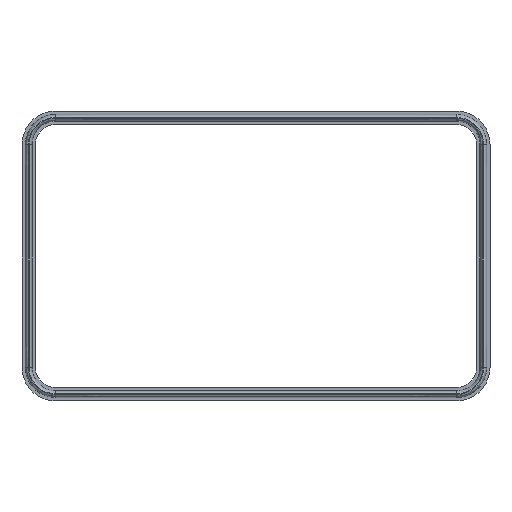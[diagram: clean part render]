
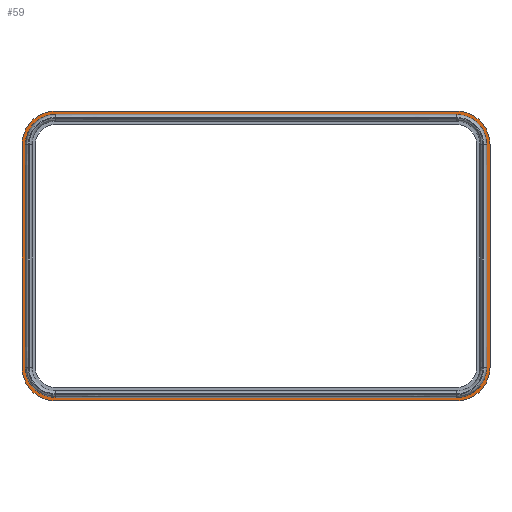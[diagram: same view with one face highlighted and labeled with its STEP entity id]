
A CAD part, top view. The second image highlights one B-rep face of the part: STEP entity #59.
In plain terms, the highlighted planar face has unit normal (0, 0, 1).
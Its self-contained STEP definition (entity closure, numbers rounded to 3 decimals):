
#21 = EDGE_CURVE('',#22,#24,#26,.T.);
#22 = VERTEX_POINT('',#23);
#23 = CARTESIAN_POINT('',(-24.,-2.,0.8));
#24 = VERTEX_POINT('',#25);
#25 = CARTESIAN_POINT('',(-18.,-8.,0.8));
#26 = CIRCLE('',#27,6.);
#27 = AXIS2_PLACEMENT_3D('',#28,#29,#30);
#28 = CARTESIAN_POINT('',(-18.,-2.,0.8));
#29 = DIRECTION('',(0.,0.,1.));
#30 = DIRECTION('',(1.,0.,-0.));
#59 = ADVANCED_FACE('',(#60,#120),#234,.T.);
#60 = FACE_BOUND('',#61,.T.);
#61 = EDGE_LOOP('',(#62,#63,#71,#80,#88,#97,#105,#114));
#62 = ORIENTED_EDGE('',*,*,#21,.T.);
#63 = ORIENTED_EDGE('',*,*,#64,.T.);
#64 = EDGE_CURVE('',#24,#65,#67,.T.);
#65 = VERTEX_POINT('',#66);
#66 = CARTESIAN_POINT('',(54.,-8.,0.8));
#67 = LINE('',#68,#69);
#68 = CARTESIAN_POINT('',(-18.,-8.,0.8));
#69 = VECTOR('',#70,1.);
#70 = DIRECTION('',(1.,0.,-0.));
#71 = ORIENTED_EDGE('',*,*,#72,.T.);
#72 = EDGE_CURVE('',#65,#73,#75,.T.);
#73 = VERTEX_POINT('',#74);
#74 = CARTESIAN_POINT('',(60.,-2.,0.8));
#75 = CIRCLE('',#76,6.);
#76 = AXIS2_PLACEMENT_3D('',#77,#78,#79);
#77 = CARTESIAN_POINT('',(54.,-2.,0.8));
#78 = DIRECTION('',(0.,0.,1.));
#79 = DIRECTION('',(1.,0.,-0.));
#80 = ORIENTED_EDGE('',*,*,#81,.T.);
#81 = EDGE_CURVE('',#73,#82,#84,.T.);
#82 = VERTEX_POINT('',#83);
#83 = CARTESIAN_POINT('',(60.,38.,0.8));
#84 = LINE('',#85,#86);
#85 = CARTESIAN_POINT('',(60.,-2.,0.8));
#86 = VECTOR('',#87,1.);
#87 = DIRECTION('',(-0.,1.,0.));
#88 = ORIENTED_EDGE('',*,*,#89,.T.);
#89 = EDGE_CURVE('',#82,#90,#92,.T.);
#90 = VERTEX_POINT('',#91);
#91 = CARTESIAN_POINT('',(54.,44.,0.8));
#92 = CIRCLE('',#93,6.);
#93 = AXIS2_PLACEMENT_3D('',#94,#95,#96);
#94 = CARTESIAN_POINT('',(54.,38.,0.8));
#95 = DIRECTION('',(0.,0.,1.));
#96 = DIRECTION('',(1.,0.,-0.));
#97 = ORIENTED_EDGE('',*,*,#98,.F.);
#98 = EDGE_CURVE('',#99,#90,#101,.T.);
#99 = VERTEX_POINT('',#100);
#100 = CARTESIAN_POINT('',(-18.,44.,0.8));
#101 = LINE('',#102,#103);
#102 = CARTESIAN_POINT('',(-18.,44.,0.8));
#103 = VECTOR('',#104,1.);
#104 = DIRECTION('',(1.,0.,-0.));
#105 = ORIENTED_EDGE('',*,*,#106,.T.);
#106 = EDGE_CURVE('',#99,#107,#109,.T.);
#107 = VERTEX_POINT('',#108);
#108 = CARTESIAN_POINT('',(-24.,38.,0.8));
#109 = CIRCLE('',#110,6.);
#110 = AXIS2_PLACEMENT_3D('',#111,#112,#113);
#111 = CARTESIAN_POINT('',(-18.,38.,0.8));
#112 = DIRECTION('',(0.,0.,1.));
#113 = DIRECTION('',(1.,0.,-0.));
#114 = ORIENTED_EDGE('',*,*,#115,.F.);
#115 = EDGE_CURVE('',#22,#107,#116,.T.);
#116 = LINE('',#117,#118);
#117 = CARTESIAN_POINT('',(-24.,-2.,0.8));
#118 = VECTOR('',#119,1.);
#119 = DIRECTION('',(-0.,1.,0.));
#120 = FACE_BOUND('',#121,.T.);
#121 = EDGE_LOOP('',(#122,#138,#152,#166,#180,#194,#208,#222));
#122 = ORIENTED_EDGE('',*,*,#123,.F.);
#123 = EDGE_CURVE('',#124,#126,#128,.T.);
#124 = VERTEX_POINT('',#125);
#125 = CARTESIAN_POINT('',(54.,-7.4,0.8));
#126 = VERTEX_POINT('',#127);
#127 = CARTESIAN_POINT('',(59.4,-2.,0.8));
#128 = B_SPLINE_CURVE_WITH_KNOTS('',8,(#129,#130,#131,#132,#133,#134,
    #135,#136,#137),.UNSPECIFIED.,.F.,.F.,(9,9),(0.,1.),
  .PIECEWISE_BEZIER_KNOTS.);
#129 = CARTESIAN_POINT('',(54.,-7.4,0.8));
#130 = CARTESIAN_POINT('',(55.06,-7.4,0.8));
#131 = CARTESIAN_POINT('',(56.121,-7.162,0.8));
#132 = CARTESIAN_POINT('',(57.119,-6.686,0.8));
#133 = CARTESIAN_POINT('',(57.992,-5.992,0.8));
#134 = CARTESIAN_POINT('',(58.686,-5.119,0.8));
#135 = CARTESIAN_POINT('',(59.162,-4.121,0.8));
#136 = CARTESIAN_POINT('',(59.4,-3.06,0.8));
#137 = CARTESIAN_POINT('',(59.4,-2.,0.8));
#138 = ORIENTED_EDGE('',*,*,#139,.F.);
#139 = EDGE_CURVE('',#140,#124,#142,.T.);
#140 = VERTEX_POINT('',#141);
#141 = CARTESIAN_POINT('',(-18.,-7.4,0.8));
#142 = B_SPLINE_CURVE_WITH_KNOTS('',8,(#143,#144,#145,#146,#147,#148,
    #149,#150,#151),.UNSPECIFIED.,.F.,.F.,(9,9),(7.,8.),
  .PIECEWISE_BEZIER_KNOTS.);
#143 = CARTESIAN_POINT('',(-18.,-7.4,0.8));
#144 = CARTESIAN_POINT('',(-9.,-7.4,0.8));
#145 = CARTESIAN_POINT('',(0.,-7.4,0.8));
#146 = CARTESIAN_POINT('',(9.,-7.4,0.8));
#147 = CARTESIAN_POINT('',(18.,-7.4,0.8));
#148 = CARTESIAN_POINT('',(27.,-7.4,0.8));
#149 = CARTESIAN_POINT('',(36.,-7.4,0.8));
#150 = CARTESIAN_POINT('',(45.,-7.4,0.8));
#151 = CARTESIAN_POINT('',(54.,-7.4,0.8));
#152 = ORIENTED_EDGE('',*,*,#153,.F.);
#153 = EDGE_CURVE('',#154,#140,#156,.T.);
#154 = VERTEX_POINT('',#155);
#155 = CARTESIAN_POINT('',(-23.4,-2.,0.8));
#156 = B_SPLINE_CURVE_WITH_KNOTS('',8,(#157,#158,#159,#160,#161,#162,
    #163,#164,#165),.UNSPECIFIED.,.F.,.F.,(9,9),(6.,7.),
  .PIECEWISE_BEZIER_KNOTS.);
#157 = CARTESIAN_POINT('',(-23.4,-2.,0.8));
#158 = CARTESIAN_POINT('',(-23.4,-3.06,0.8));
#159 = CARTESIAN_POINT('',(-23.162,-4.121,0.8));
#160 = CARTESIAN_POINT('',(-22.686,-5.119,0.8));
#161 = CARTESIAN_POINT('',(-21.992,-5.992,0.8));
#162 = CARTESIAN_POINT('',(-21.119,-6.686,0.8));
#163 = CARTESIAN_POINT('',(-20.121,-7.162,0.8));
#164 = CARTESIAN_POINT('',(-19.06,-7.4,0.8));
#165 = CARTESIAN_POINT('',(-18.,-7.4,0.8));
#166 = ORIENTED_EDGE('',*,*,#167,.F.);
#167 = EDGE_CURVE('',#168,#154,#170,.T.);
#168 = VERTEX_POINT('',#169);
#169 = CARTESIAN_POINT('',(-23.4,38.,0.8));
#170 = B_SPLINE_CURVE_WITH_KNOTS('',8,(#171,#172,#173,#174,#175,#176,
    #177,#178,#179),.UNSPECIFIED.,.F.,.F.,(9,9),(5.,6.),
  .PIECEWISE_BEZIER_KNOTS.);
#171 = CARTESIAN_POINT('',(-23.4,38.,0.8));
#172 = CARTESIAN_POINT('',(-23.4,33.,0.8));
#173 = CARTESIAN_POINT('',(-23.4,28.,0.8));
#174 = CARTESIAN_POINT('',(-23.4,23.,0.8));
#175 = CARTESIAN_POINT('',(-23.4,18.,0.8));
#176 = CARTESIAN_POINT('',(-23.4,13.,0.8));
#177 = CARTESIAN_POINT('',(-23.4,8.,0.8));
#178 = CARTESIAN_POINT('',(-23.4,3.,0.8));
#179 = CARTESIAN_POINT('',(-23.4,-2.,0.8));
#180 = ORIENTED_EDGE('',*,*,#181,.F.);
#181 = EDGE_CURVE('',#182,#168,#184,.T.);
#182 = VERTEX_POINT('',#183);
#183 = CARTESIAN_POINT('',(-18.,43.4,0.8));
#184 = B_SPLINE_CURVE_WITH_KNOTS('',8,(#185,#186,#187,#188,#189,#190,
    #191,#192,#193),.UNSPECIFIED.,.F.,.F.,(9,9),(4.,5.),
  .PIECEWISE_BEZIER_KNOTS.);
#185 = CARTESIAN_POINT('',(-18.,43.4,0.8));
#186 = CARTESIAN_POINT('',(-19.06,43.4,0.8));
#187 = CARTESIAN_POINT('',(-20.121,43.162,0.8));
#188 = CARTESIAN_POINT('',(-21.119,42.686,0.8));
#189 = CARTESIAN_POINT('',(-21.992,41.992,0.8));
#190 = CARTESIAN_POINT('',(-22.686,41.119,0.8));
#191 = CARTESIAN_POINT('',(-23.162,40.121,0.8));
#192 = CARTESIAN_POINT('',(-23.4,39.06,0.8));
#193 = CARTESIAN_POINT('',(-23.4,38.,0.8));
#194 = ORIENTED_EDGE('',*,*,#195,.F.);
#195 = EDGE_CURVE('',#196,#182,#198,.T.);
#196 = VERTEX_POINT('',#197);
#197 = CARTESIAN_POINT('',(54.,43.4,0.8));
#198 = B_SPLINE_CURVE_WITH_KNOTS('',8,(#199,#200,#201,#202,#203,#204,
    #205,#206,#207),.UNSPECIFIED.,.F.,.F.,(9,9),(3.,4.),
  .PIECEWISE_BEZIER_KNOTS.);
#199 = CARTESIAN_POINT('',(54.,43.4,0.8));
#200 = CARTESIAN_POINT('',(45.,43.4,0.8));
#201 = CARTESIAN_POINT('',(36.,43.4,0.8));
#202 = CARTESIAN_POINT('',(27.,43.4,0.8));
#203 = CARTESIAN_POINT('',(18.,43.4,0.8));
#204 = CARTESIAN_POINT('',(9.,43.4,0.8));
#205 = CARTESIAN_POINT('',(0.,43.4,0.8));
#206 = CARTESIAN_POINT('',(-9.,43.4,0.8));
#207 = CARTESIAN_POINT('',(-18.,43.4,0.8));
#208 = ORIENTED_EDGE('',*,*,#209,.F.);
#209 = EDGE_CURVE('',#210,#196,#212,.T.);
#210 = VERTEX_POINT('',#211);
#211 = CARTESIAN_POINT('',(59.4,38.,0.8));
#212 = B_SPLINE_CURVE_WITH_KNOTS('',8,(#213,#214,#215,#216,#217,#218,
    #219,#220,#221),.UNSPECIFIED.,.F.,.F.,(9,9),(2.,3.),
  .PIECEWISE_BEZIER_KNOTS.);
#213 = CARTESIAN_POINT('',(59.4,38.,0.8));
#214 = CARTESIAN_POINT('',(59.4,39.06,0.8));
#215 = CARTESIAN_POINT('',(59.162,40.121,0.8));
#216 = CARTESIAN_POINT('',(58.686,41.119,0.8));
#217 = CARTESIAN_POINT('',(57.992,41.992,0.8));
#218 = CARTESIAN_POINT('',(57.119,42.686,0.8));
#219 = CARTESIAN_POINT('',(56.121,43.162,0.8));
#220 = CARTESIAN_POINT('',(55.06,43.4,0.8));
#221 = CARTESIAN_POINT('',(54.,43.4,0.8));
#222 = ORIENTED_EDGE('',*,*,#223,.F.);
#223 = EDGE_CURVE('',#126,#210,#224,.T.);
#224 = B_SPLINE_CURVE_WITH_KNOTS('',8,(#225,#226,#227,#228,#229,#230,
    #231,#232,#233),.UNSPECIFIED.,.F.,.F.,(9,9),(1.,2.),
  .PIECEWISE_BEZIER_KNOTS.);
#225 = CARTESIAN_POINT('',(59.4,-2.,0.8));
#226 = CARTESIAN_POINT('',(59.4,3.,0.8));
#227 = CARTESIAN_POINT('',(59.4,8.,0.8));
#228 = CARTESIAN_POINT('',(59.4,13.,0.8));
#229 = CARTESIAN_POINT('',(59.4,18.,0.8));
#230 = CARTESIAN_POINT('',(59.4,23.,0.8));
#231 = CARTESIAN_POINT('',(59.4,28.,0.8));
#232 = CARTESIAN_POINT('',(59.4,33.,0.8));
#233 = CARTESIAN_POINT('',(59.4,38.,0.8));
#234 = PLANE('',#235);
#235 = AXIS2_PLACEMENT_3D('',#236,#237,#238);
#236 = CARTESIAN_POINT('',(18.,18.,0.8));
#237 = DIRECTION('',(0.,0.,1.));
#238 = DIRECTION('',(1.,0.,-0.));
